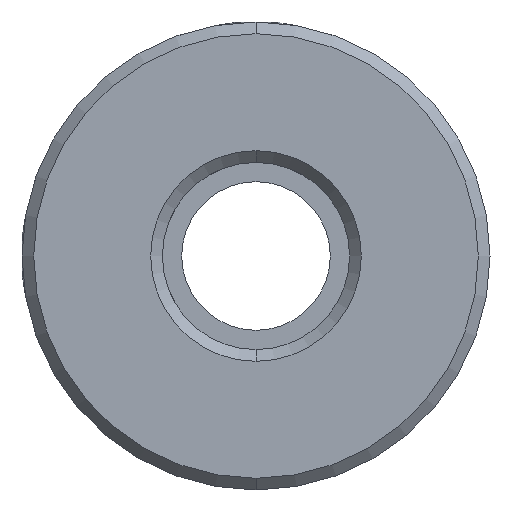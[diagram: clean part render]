
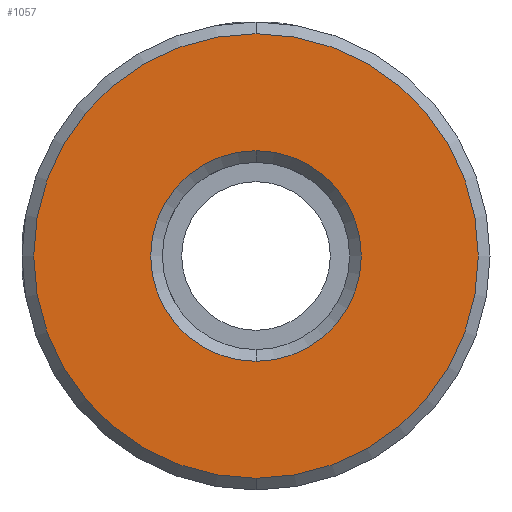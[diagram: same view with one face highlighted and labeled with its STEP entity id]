
A CAD part, front view. The second image highlights one B-rep face of the part: STEP entity #1057.
In plain terms, the highlighted planar face has unit normal (0, -1, 0).
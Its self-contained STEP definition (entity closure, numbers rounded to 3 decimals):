
#92 = CARTESIAN_POINT ( 'NONE',  ( -10.188, -0.277, 4.546 ) ) ;
#165 = VERTEX_POINT ( 'NONE', #636 ) ;
#204 = DIRECTION ( 'NONE',  ( 0., -1., 0. ) ) ;
#325 = EDGE_LOOP ( 'NONE', ( #338, #3228 ) ) ;
#338 = ORIENTED_EDGE ( 'NONE', *, *, #3222, .T. ) ;
#415 = EDGE_CURVE ( 'NONE', #1493, #3318, #539, .T. ) ;
#458 = AXIS2_PLACEMENT_3D ( 'NONE', #2674, #3469, #1778 ) ;
#539 = CIRCLE ( 'NONE', #950, 4.5 ) ;
#605 = VERTEX_POINT ( 'NONE', #1095 ) ;
#636 = CARTESIAN_POINT ( 'NONE',  ( -10.188, -0.277, -9.454 ) ) ;
#665 = AXIS2_PLACEMENT_3D ( 'NONE', #2909, #954, #2368 ) ;
#673 = PLANE ( 'NONE',  #458 ) ;
#782 = DIRECTION ( 'NONE',  ( 0., 0., 1. ) ) ;
#808 = DIRECTION ( 'NONE',  ( 0., -1., 0. ) ) ;
#852 = CIRCLE ( 'NONE', #2561, 9.5 ) ;
#942 = EDGE_LOOP ( 'NONE', ( #1218, #2829 ) ) ;
#950 = AXIS2_PLACEMENT_3D ( 'NONE', #3584, #1885, #2771 ) ;
#954 = DIRECTION ( 'NONE',  ( 0., 1., 0. ) ) ;
#959 = CIRCLE ( 'NONE', #665, 4.5 ) ;
#1057 = ADVANCED_FACE ( 'NONE', ( #2527, #1996 ), #673, .F. ) ;
#1095 = CARTESIAN_POINT ( 'NONE',  ( -10.188, -0.277, 9.546 ) ) ;
#1218 = ORIENTED_EDGE ( 'NONE', *, *, #1897, .T. ) ;
#1395 = CARTESIAN_POINT ( 'NONE',  ( -10.188, -0.277, 0.046 ) ) ;
#1493 = VERTEX_POINT ( 'NONE', #92 ) ;
#1778 = DIRECTION ( 'NONE',  ( 0., 0., 1. ) ) ;
#1885 = DIRECTION ( 'NONE',  ( 0., 1., 0. ) ) ;
#1897 = EDGE_CURVE ( 'NONE', #3318, #1493, #959, .T. ) ;
#1996 = FACE_BOUND ( 'NONE', #942, .T. ) ;
#2235 = CIRCLE ( 'NONE', #2494, 9.5 ) ;
#2368 = DIRECTION ( 'NONE',  ( 0., 0., 1. ) ) ;
#2494 = AXIS2_PLACEMENT_3D ( 'NONE', #1395, #808, #3634 ) ;
#2527 = FACE_OUTER_BOUND ( 'NONE', #325, .T. ) ;
#2561 = AXIS2_PLACEMENT_3D ( 'NONE', #2726, #204, #782 ) ;
#2674 = CARTESIAN_POINT ( 'NONE',  ( -10.188, -0.277, 0.046 ) ) ;
#2726 = CARTESIAN_POINT ( 'NONE',  ( -10.188, -0.277, 0.046 ) ) ;
#2771 = DIRECTION ( 'NONE',  ( 0., 0., 1. ) ) ;
#2829 = ORIENTED_EDGE ( 'NONE', *, *, #415, .T. ) ;
#2909 = CARTESIAN_POINT ( 'NONE',  ( -10.188, -0.277, 0.046 ) ) ;
#3222 = EDGE_CURVE ( 'NONE', #605, #165, #2235, .T. ) ;
#3228 = ORIENTED_EDGE ( 'NONE', *, *, #3580, .T. ) ;
#3318 = VERTEX_POINT ( 'NONE', #3334 ) ;
#3334 = CARTESIAN_POINT ( 'NONE',  ( -10.188, -0.277, -4.454 ) ) ;
#3469 = DIRECTION ( 'NONE',  ( 0., 1., 0. ) ) ;
#3580 = EDGE_CURVE ( 'NONE', #165, #605, #852, .T. ) ;
#3584 = CARTESIAN_POINT ( 'NONE',  ( -10.188, -0.277, 0.046 ) ) ;
#3634 = DIRECTION ( 'NONE',  ( 0., 0., 1. ) ) ;
